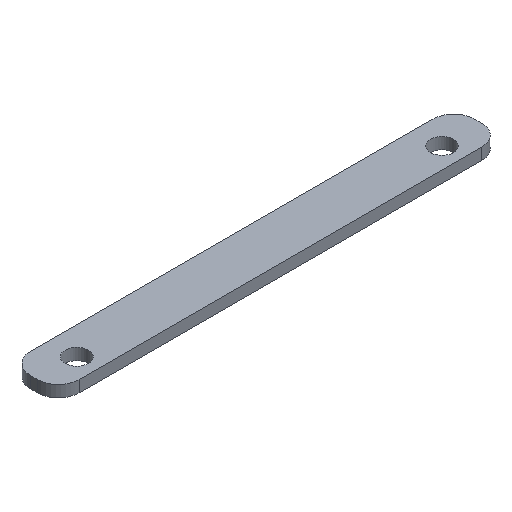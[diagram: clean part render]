
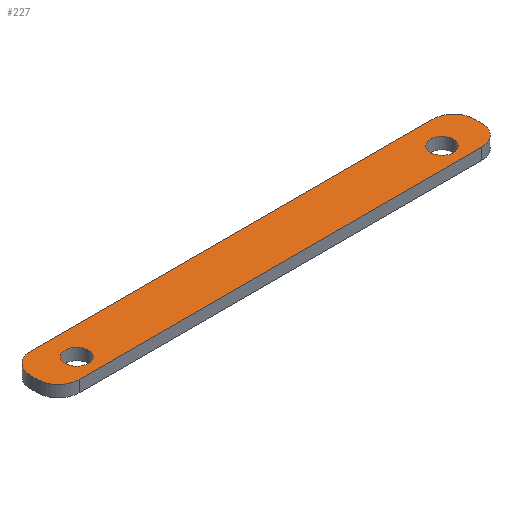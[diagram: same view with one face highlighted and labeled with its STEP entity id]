
A CAD part, isometric view. The second image highlights one B-rep face of the part: STEP entity #227.
In plain terms, the highlighted planar face has unit normal (0, 0, 1).
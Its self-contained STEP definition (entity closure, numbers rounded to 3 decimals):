
#15=FACE_BOUND('',#48,.T.);
#16=FACE_BOUND('',#49,.T.);
#23=PLANE('',#271);
#35=FACE_OUTER_BOUND('',#47,.T.);
#47=EDGE_LOOP('',(#191,#192,#193,#194,#195,#196,#197,#198));
#48=EDGE_LOOP('',(#199));
#49=EDGE_LOOP('',(#200));
#58=LINE('',#367,#76);
#62=LINE('',#379,#80);
#66=LINE('',#391,#84);
#70=LINE('',#401,#88);
#76=VECTOR('',#300,10.);
#80=VECTOR('',#312,10.);
#84=VECTOR('',#324,10.);
#88=VECTOR('',#336,10.);
#89=CIRCLE('',#250,5.);
#91=CIRCLE('',#253,5.);
#94=CIRCLE('',#257,9.);
#96=CIRCLE('',#261,9.);
#98=CIRCLE('',#265,9.);
#100=CIRCLE('',#269,9.);
#101=VERTEX_POINT('',#343);
#103=VERTEX_POINT('',#349);
#107=VERTEX_POINT('',#358);
#108=VERTEX_POINT('',#360);
#110=VERTEX_POINT('',#366);
#112=VERTEX_POINT('',#372);
#114=VERTEX_POINT('',#378);
#116=VERTEX_POINT('',#384);
#118=VERTEX_POINT('',#390);
#120=VERTEX_POINT('',#396);
#121=EDGE_CURVE('',#101,#101,#89,.T.);
#124=EDGE_CURVE('',#103,#103,#91,.T.);
#129=EDGE_CURVE('',#108,#107,#94,.T.);
#132=EDGE_CURVE('',#110,#108,#58,.T.);
#135=EDGE_CURVE('',#112,#110,#96,.T.);
#138=EDGE_CURVE('',#114,#112,#62,.T.);
#141=EDGE_CURVE('',#116,#114,#98,.T.);
#144=EDGE_CURVE('',#118,#116,#66,.T.);
#147=EDGE_CURVE('',#120,#118,#100,.T.);
#150=EDGE_CURVE('',#107,#120,#70,.T.);
#191=ORIENTED_EDGE('',*,*,#150,.T.);
#192=ORIENTED_EDGE('',*,*,#147,.T.);
#193=ORIENTED_EDGE('',*,*,#144,.T.);
#194=ORIENTED_EDGE('',*,*,#141,.T.);
#195=ORIENTED_EDGE('',*,*,#138,.T.);
#196=ORIENTED_EDGE('',*,*,#135,.T.);
#197=ORIENTED_EDGE('',*,*,#132,.T.);
#198=ORIENTED_EDGE('',*,*,#129,.T.);
#199=ORIENTED_EDGE('',*,*,#124,.T.);
#200=ORIENTED_EDGE('',*,*,#121,.T.);
#227=ADVANCED_FACE('',(#35,#15,#16),#23,.T.);
#250=AXIS2_PLACEMENT_3D('',#344,#277,#278);
#253=AXIS2_PLACEMENT_3D('',#350,#284,#285);
#257=AXIS2_PLACEMENT_3D('',#361,#294,#295);
#261=AXIS2_PLACEMENT_3D('',#373,#306,#307);
#265=AXIS2_PLACEMENT_3D('',#385,#318,#319);
#269=AXIS2_PLACEMENT_3D('',#397,#330,#331);
#271=AXIS2_PLACEMENT_3D('',#402,#337,#338);
#277=DIRECTION('center_axis',(0.,0.,-1.));
#278=DIRECTION('ref_axis',(-1.,0.,0.));
#284=DIRECTION('center_axis',(0.,0.,-1.));
#285=DIRECTION('ref_axis',(-1.,0.,0.));
#294=DIRECTION('center_axis',(0.,0.,1.));
#295=DIRECTION('ref_axis',(1.,0.,0.));
#300=DIRECTION('',(0.,1.,0.));
#306=DIRECTION('center_axis',(0.,0.,1.));
#307=DIRECTION('ref_axis',(0.,-1.,0.));
#312=DIRECTION('',(1.,0.,0.));
#318=DIRECTION('center_axis',(0.,0.,1.));
#319=DIRECTION('ref_axis',(-1.,0.,0.));
#324=DIRECTION('',(0.,-1.,0.));
#330=DIRECTION('center_axis',(0.,0.,1.));
#331=DIRECTION('ref_axis',(0.,1.,0.));
#336=DIRECTION('',(-1.,0.,0.));
#337=DIRECTION('center_axis',(0.,0.,1.));
#338=DIRECTION('ref_axis',(1.,0.,0.));
#343=CARTESIAN_POINT('',(5.,0.,5.));
#344=CARTESIAN_POINT('Origin',(0.,0.,5.));
#349=CARTESIAN_POINT('',(162.85,0.,5.));
#350=CARTESIAN_POINT('Origin',(157.85,0.,5.));
#358=CARTESIAN_POINT('',(165.85,12.,5.));
#360=CARTESIAN_POINT('',(174.85,3.,5.));
#361=CARTESIAN_POINT('Origin',(165.85,3.,5.));
#366=CARTESIAN_POINT('',(174.85,0.,5.));
#367=CARTESIAN_POINT('',(174.85,0.,5.));
#372=CARTESIAN_POINT('',(165.85,-9.,5.));
#373=CARTESIAN_POINT('Origin',(165.85,0.,5.));
#378=CARTESIAN_POINT('',(-8.,-9.,5.));
#379=CARTESIAN_POINT('',(-8.,-9.,5.));
#384=CARTESIAN_POINT('',(-17.,0.,5.));
#385=CARTESIAN_POINT('Origin',(-8.,0.,5.));
#390=CARTESIAN_POINT('',(-17.,3.,5.));
#391=CARTESIAN_POINT('',(-17.,3.,5.));
#396=CARTESIAN_POINT('',(-8.,12.,5.));
#397=CARTESIAN_POINT('Origin',(-8.,3.,5.));
#401=CARTESIAN_POINT('',(165.85,12.,5.));
#402=CARTESIAN_POINT('Origin',(78.925,1.5,5.));
